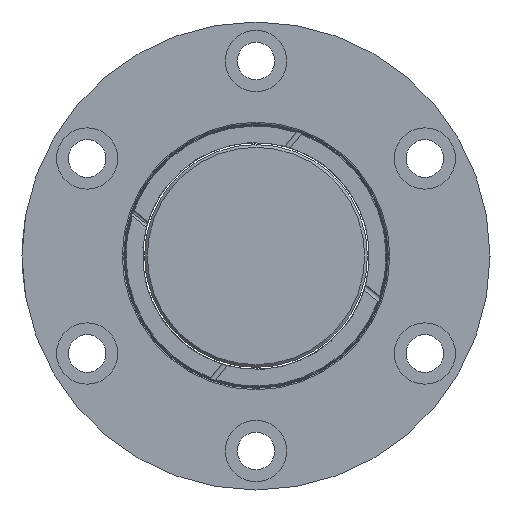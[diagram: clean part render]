
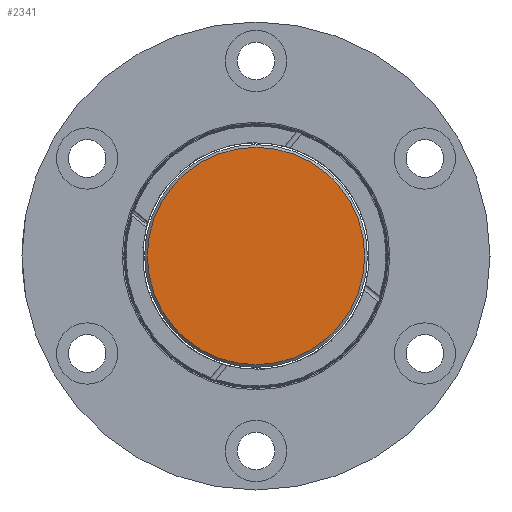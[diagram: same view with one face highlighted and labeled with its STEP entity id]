
A CAD part, left-side view. The second image highlights one B-rep face of the part: STEP entity #2341.
In plain terms, the highlighted planar face has unit normal (-1, 0, 0).
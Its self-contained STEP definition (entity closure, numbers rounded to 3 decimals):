
#70 = CARTESIAN_POINT ( 'NONE',  ( -10., 0., 39. ) ) ;
#81 = CARTESIAN_POINT ( 'NONE',  ( -10., 0., 0. ) ) ;
#350 = DIRECTION ( 'NONE',  ( -1., 0., 0. ) ) ;
#477 = EDGE_CURVE ( 'NONE', #2110, #1299, #3950, .T. ) ;
#507 = CARTESIAN_POINT ( 'NONE',  ( -10., 0., -39. ) ) ;
#1031 = ORIENTED_EDGE ( 'NONE', *, *, #4196, .T. ) ;
#1299 = VERTEX_POINT ( 'NONE', #507 ) ;
#1319 = AXIS2_PLACEMENT_3D ( 'NONE', #81, #350, #4035 ) ;
#1367 = CARTESIAN_POINT ( 'NONE',  ( -10., 0., 0. ) ) ;
#1440 = AXIS2_PLACEMENT_3D ( 'NONE', #2499, #4176, #1869 ) ;
#1560 = AXIS2_PLACEMENT_3D ( 'NONE', #1367, #3358, #4048 ) ;
#1869 = DIRECTION ( 'NONE',  ( 0., 0., 1. ) ) ;
#2110 = VERTEX_POINT ( 'NONE', #70 ) ;
#2274 = EDGE_LOOP ( 'NONE', ( #1031, #3645 ) ) ;
#2341 = ADVANCED_FACE ( 'NONE', ( #2928 ), #3655, .T. ) ;
#2499 = CARTESIAN_POINT ( 'NONE',  ( -10., 0., 0. ) ) ;
#2928 = FACE_OUTER_BOUND ( 'NONE', #2274, .T. ) ;
#3358 = DIRECTION ( 'NONE',  ( -1., 0., 0. ) ) ;
#3645 = ORIENTED_EDGE ( 'NONE', *, *, #477, .T. ) ;
#3655 = PLANE ( 'NONE',  #1319 ) ;
#3950 = CIRCLE ( 'NONE', #1440, 39. ) ;
#4035 = DIRECTION ( 'NONE',  ( 0., 0., 1. ) ) ;
#4048 = DIRECTION ( 'NONE',  ( 0., 0., 1. ) ) ;
#4090 = CIRCLE ( 'NONE', #1560, 39. ) ;
#4176 = DIRECTION ( 'NONE',  ( -1., 0., 0. ) ) ;
#4196 = EDGE_CURVE ( 'NONE', #1299, #2110, #4090, .T. ) ;
